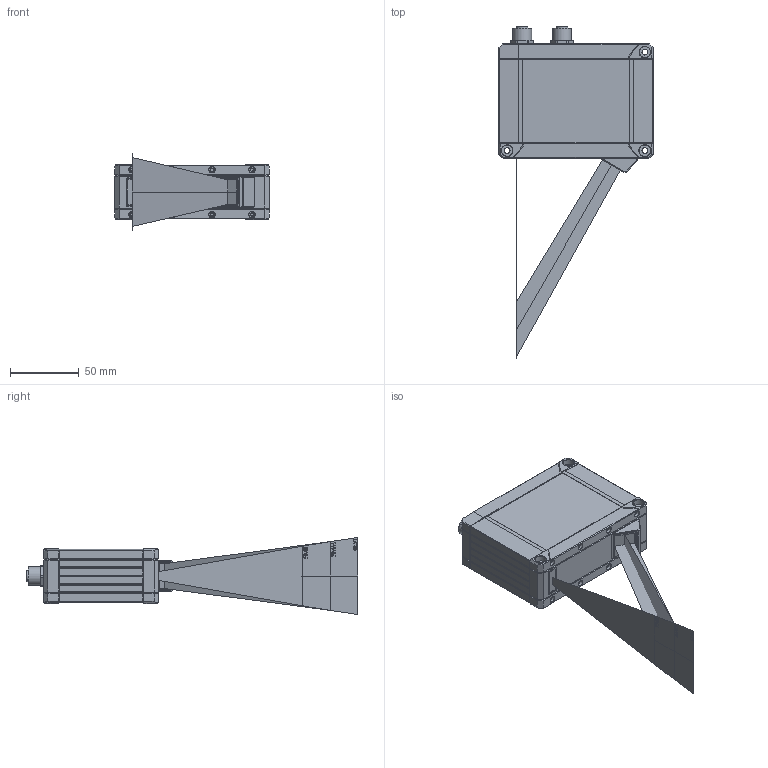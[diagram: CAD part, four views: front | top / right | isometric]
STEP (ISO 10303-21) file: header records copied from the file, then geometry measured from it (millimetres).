
FILE_DESCRIPTION (( 'STEP AP214' ), '1' );
FILE_NAME ('LLT30xx MB50 Blau AA.STEP', '2021-01-26T15:45:33', ( '' ), ( '' ), 'SwSTEP 2.0', 'SolidWorks 2020', '' );
FILE_SCHEMA (( 'AUTOMOTIVE_DESIGN' ));
Length unit declared in the file: millimetre
Products named in the file (1): LLT30xx MB50 Blau AA
Bounding box: 112 x 241 x 55.9 mm (x, y, z)
Volume: 359433.6 mm3; surface area: 68297.4 mm2
Topology: 22 solids, 25 shells, 1203 faces, 2994 edges, 1931 vertices
Faces by surface type: plane 720, cylinder 205, bspline 182, cone 84, torus 12
Full cylindrical faces by diameter (mm): 0.7 x12, 1 x8, 1.5 x8, 1.55 x1, 2.4 x19, 3 x3, 4.2 x3, 4.4 x16, 8 x4, 9.4 x3, 9.5 x1, 9.6 x4, 10.7 x2, 10.75 x2, 11 x12, 13.5 x2
Entity records: 60899 total; most frequent: CARTESIAN_POINT 21548, ORIENTED_EDGE 5586, DIRECTION 4681, EDGE_CURVE 2793, VERTEX_POINT 1889, VECTOR 1797, LINE 1797, EDGE_LOOP 1484
